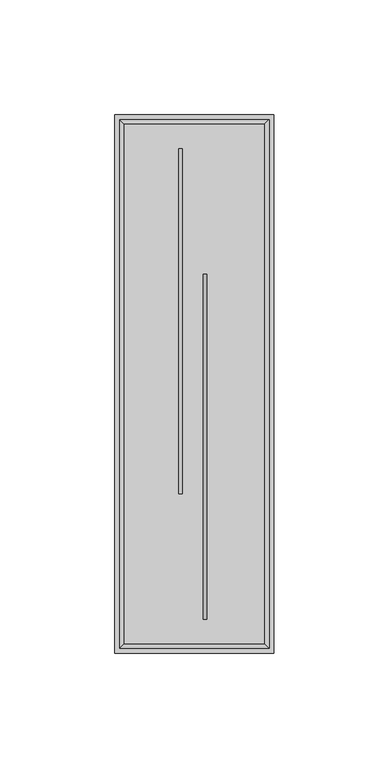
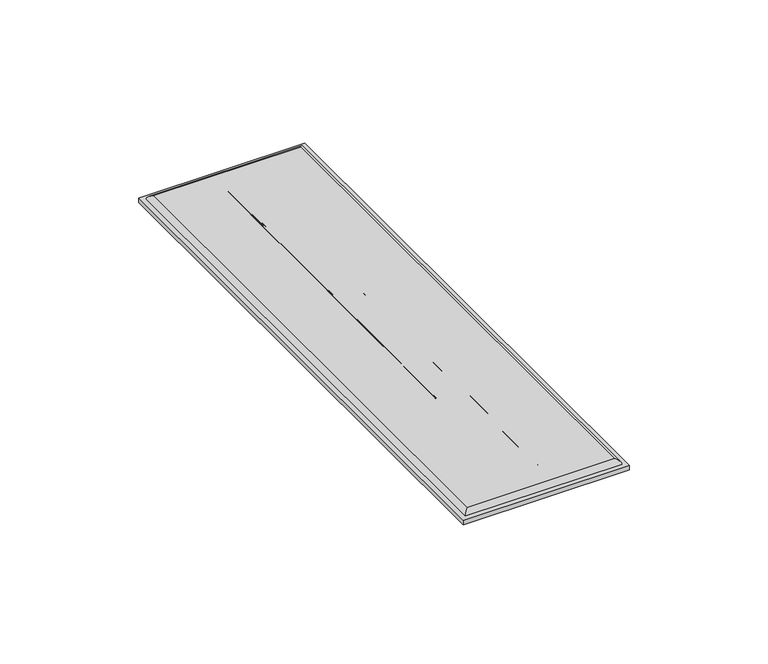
"""IFC4 building model written with IfcOpenShell, lengths in millimetres: proxy geometry, PBSHOP - HORIZONTES TULUM 6,5X23 : TULUM FENDA."""

from ifc_helpers import new_model, si_unit, point, frame, origin, place, context, project, spatial, polyline, circle_curve, ellipse_curve, trimmed, source, transform, mapped, element, save
from ifc_brep_helpers import plane_surface, cylinder_surface, revolved_surface, advanced_brep


def generic_models_c1e678a0(model_context):
    return source(origin(), model_context, "Body", "AdvancedBrep", [
        advanced_brep(
        [(-7.9815224, -47.6646464, 1.7205609), (-7.9815224, -47.5885768, 0.7234584), (-3.9815224, -47.5885768, 0.7234584), (-3.9815224, -47.6646464, 1.7205609), (-7.9815224, 102.2402665, 1.7205609), (-3.9815224, 102.2402665, 1.7205609), (-3.9815224, 102.1641968, 0.7234584), (-7.9815224, 102.1641968, 0.7234584)],
        [
            (0, 1),
            (1, 2),
            (2, 3),
            (3, 0, circle_curve(frame((-5.9815224, -47.6646464, 1.7205609), z_axis=(0.0, -0.9971025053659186, -0.0760696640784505), x_axis=(0.0, -0.0760696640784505, 0.9971025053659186)), 2.0)),
            (4, 5, circle_curve(frame((-5.9815224, 102.2402665, 1.7205609), z_axis=(0.0, 0.9971025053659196, -0.07606966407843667), x_axis=(0.0, 0.07606966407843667, 0.9971025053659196)), 2.0)),
            (5, 6),
            (6, 7),
            (7, 4),
            (3, 5, circle_curve(frame((-3.9815224, 27.28781, -980.7378609), z_axis=(-1.0, 0.0, 0.0), x_axis=(0.0, -0.0760696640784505, 0.9971025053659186)), 985.313362)),
            (4, 0, circle_curve(frame((-7.9815224, 27.28781, -980.7378609), z_axis=(1.0, 0.0, 0.0), x_axis=(0.0, -0.0760696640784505, 0.9971025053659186)), 985.313362)),
            (7, 1, circle_curve(frame((-7.9815224, 27.28781, -980.7378609), z_axis=(1.0, 0.0, 0.0), x_axis=(0.0, -0.0760696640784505, 0.9971025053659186)), 984.313362)),
            (6, 2, circle_curve(frame((-3.9815224, 27.28781, -980.7378609), z_axis=(1.0, 0.0, 0.0), x_axis=(0.0, -0.0760696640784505, 0.9971025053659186)), 984.313362)),
        ],
        [
            plane_surface(frame((-5.9815224, -47.71219, 2.34375), z_axis=(0.0, -0.9971025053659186, -0.0760696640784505), x_axis=(1.0, 0.0, 0.0))),
            plane_surface(frame((-5.9815224, 102.28781, 2.34375), z_axis=(0.0, 0.9971025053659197, -0.0760696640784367), x_axis=(1.0, 0.0, 0.0))),
            revolved_surface(trimmed(ellipse_curve(frame((-5.9815224, -47.6646464, 1.7205609), z_axis=(0.0, -0.9971025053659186, -0.0760696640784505), x_axis=(0.0, -0.0760696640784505, 0.9971025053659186)), 2.0, 2.0), [point((-3.9815224, -47.6646464, 1.7205609))], [point((-7.9815224, -47.6646464, 1.7205609))], True, "CARTESIAN"), (-5.9815224, 27.28781, -980.7378609), (-1.0, 0.0, 0.0)),
            plane_surface(frame((-7.9815224, 27.28781, -980.7378609), z_axis=(-1.0, 0.0, 0.0), x_axis=(0.0, -0.0760696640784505, 0.9971025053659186))),
            revolved_surface(polyline([(-7.9815224, -47.58857679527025, 0.7234584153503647), (-3.9815224, -47.58857679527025, 0.7234584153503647)]), (-5.9815224, 27.28781, -980.7378609), (-1.0, 0.0, 0.0)),
            plane_surface(frame((-3.9815224, 27.28781, -980.7378609), z_axis=(1.0, 0.0, 0.0), x_axis=(0.0, -0.0760696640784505, 0.9971025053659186))),
        ],
        [
            (0, [[1, 2, 3, 4]]),
            (1, [[5, 6, 7, 8]]),
            (2, [[-4, 9, -5, 10]]),
            (3, [[-1, -10, -8, 11]]),
            (4, [[-2, -11, -7, 12]]),
            (5, [[-3, -12, -6, -9]]),
        ],
    ),
        advanced_brep(
        [(2.6434776, 47.6646464, 1.7205609), (6.6434776, 47.6646464, 1.7205609), (6.6434776, 47.5885768, 0.7234584), (2.6434776, 47.5885768, 0.7234584), (2.6434776, -102.2402665, 1.7205609), (2.6434776, -102.1641968, 0.7234584), (6.6434776, -102.1641968, 0.7234584), (6.6434776, -102.2402665, 1.7205609)],
        [
            (0, 1, circle_curve(frame((4.6434776, 47.6646464, 1.7205609), z_axis=(0.0, 0.9971025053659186, -0.0760696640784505), x_axis=(0.0, -0.0760696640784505, -0.9971025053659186)), 2.0)),
            (1, 2),
            (2, 3),
            (3, 0),
            (4, 5),
            (5, 6),
            (6, 7),
            (7, 4, circle_curve(frame((4.6434776, -102.2402665, 1.7205609), z_axis=(0.0, -0.9971025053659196, -0.07606966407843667), x_axis=(0.0, 0.07606966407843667, -0.9971025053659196)), 2.0)),
            (0, 4, circle_curve(frame((2.6434776, -27.28781, -980.7378609), z_axis=(1.0, 0.0, 0.0), x_axis=(0.0, 0.0760696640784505, 0.9971025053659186)), 985.313362)),
            (7, 1, circle_curve(frame((6.6434776, -27.28781, -980.7378609), z_axis=(-1.0, 0.0, 0.0), x_axis=(0.0, 0.0760696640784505, 0.9971025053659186)), 985.313362)),
            (3, 5, circle_curve(frame((2.6434776, -27.28781, -980.7378609), z_axis=(1.0, 0.0, 0.0), x_axis=(0.0, 0.0760696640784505, 0.9971025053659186)), 984.313362)),
            (2, 6, circle_curve(frame((6.6434776, -27.28781, -980.7378609), z_axis=(1.0, 0.0, 0.0), x_axis=(0.0, 0.0760696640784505, 0.9971025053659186)), 984.313362)),
        ],
        [
            plane_surface(frame((4.6434776, 47.71219, 2.34375), z_axis=(0.0, 0.9971025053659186, -0.0760696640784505), x_axis=(1.0, 0.0, 0.0))),
            plane_surface(frame((4.6434776, -102.28781, 2.34375), z_axis=(0.0, -0.9971025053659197, -0.0760696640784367), x_axis=(1.0, 0.0, 0.0))),
            revolved_surface(trimmed(ellipse_curve(frame((4.6434776, 47.6646464, 1.7205609), z_axis=(0.0, 0.9971025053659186, -0.0760696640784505), x_axis=(0.0, -0.0760696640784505, -0.9971025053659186)), 2.0, 2.0), [point((2.6434776, 47.6646464, 1.7205609))], [point((6.6434776, 47.6646464, 1.7205609))], True, "CARTESIAN"), (4.6434776, -27.28781, -980.7378609), (1.0, 0.0, 0.0)),
            plane_surface(frame((2.6434776, -27.28781, -980.7378609), z_axis=(-1.0, 0.0, 0.0), x_axis=(0.0, 0.0760696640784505, 0.9971025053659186))),
            revolved_surface(polyline([(6.6434776, 47.58857679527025, 0.7234584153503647), (2.6434776, 47.58857679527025, 0.7234584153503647)]), (4.6434776, -27.28781, -980.7378609), (1.0, 0.0, 0.0)),
            plane_surface(frame((6.6434776, -27.28781, -980.7378609), z_axis=(1.0, 0.0, 0.0), x_axis=(0.0, 0.0760696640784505, 0.9971025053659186))),
        ],
        [
            (0, [[1, 2, 3, 4]]),
            (1, [[5, 6, 7, 8]]),
            (2, [[-1, 9, -8, 10]]),
            (3, [[-4, 11, -5, -9]]),
            (4, [[-3, 12, -6, -11]]),
            (5, [[-2, -10, -7, -12]]),
        ],
    ),
        advanced_brep(
        [(-30.5, -113.0, 4.0), (30.5, -113.0, 4.0), (30.5, 113.0, 4.0), (-30.5, 113.0, 4.0), (34.5, 117.0, 0.0), (34.5, -117.0, 0.0), (-34.5, -117.0, 0.0), (-34.5, 117.0, 0.0), (32.5, -115.0, 2.0), (-32.5, -115.0, 2.0), (32.5, 115.0, 2.0), (-32.5, 115.0, 2.0), (34.5, 117.0, 2.0), (-34.5, 117.0, 2.0), (-34.5, -117.0, 2.0), (34.5, -117.0, 2.0)],
        [
            (0, 1),
            (1, 2),
            (2, 3),
            (3, 0),
            (4, 5),
            (5, 6),
            (6, 7),
            (7, 4),
            (8, 1, ellipse_curve(frame((30.5, -113.0, 2.0), z_axis=(-0.7071067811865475, -0.7071067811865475, 0.0), x_axis=(0.7071067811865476, -0.7071067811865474, 0.0)), 2.8284271, 2.0)),
            (0, 9, ellipse_curve(frame((-30.5, -113.0, 2.0), z_axis=(0.7071067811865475, -0.7071067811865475, 0.0), x_axis=(0.7071067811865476, 0.7071067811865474, 0.0)), 2.8284271, 2.0)),
            (9, 8),
            (8, 10),
            (10, 2, ellipse_curve(frame((30.5, 113.0, 2.0), z_axis=(0.7071067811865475, -0.7071067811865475, 0.0), x_axis=(0.7071067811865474, 0.7071067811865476, 0.0)), 2.8284271, 2.0)),
            (10, 11),
            (11, 3, ellipse_curve(frame((-30.5, 113.0, 2.0), z_axis=(0.7071067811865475, 0.7071067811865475, 0.0), x_axis=(-0.7071067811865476, 0.7071067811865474, 0.0)), 2.8284271, 2.0)),
            (11, 9),
            (12, 13),
            (13, 14),
            (14, 15),
            (15, 12),
            (12, 4),
            (7, 13),
            (6, 14),
            (5, 15),
        ],
        [
            plane_surface(frame((-32.5, -115.0, 4.0), z_axis=(0.0, 0.0, 1.0), x_axis=(1.0, 0.0, 0.0))),
            plane_surface(frame((-32.5, -115.0, 0.0), z_axis=(0.0, 0.0, -1.0), x_axis=(-1.0, 0.0, 0.0))),
            cylinder_surface(frame((-32.5, -113.0, 2.0), z_axis=(1.0, 0.0, 0.0), x_axis=(0.0, 1.0, 0.0)), 2.0),
            cylinder_surface(frame((30.5, -115.0, 2.0), z_axis=(0.0, 1.0, 0.0), x_axis=(-1.0, 0.0, 0.0)), 2.0),
            cylinder_surface(frame((32.5, 113.0, 2.0), z_axis=(-1.0, 0.0, 0.0), x_axis=(0.0, -1.0, 0.0)), 2.0),
            cylinder_surface(frame((-30.5, 115.0, 2.0), z_axis=(0.0, -1.0, 0.0), x_axis=(1.0, 0.0, 0.0)), 2.0),
            plane_surface(frame((-34.5, 117.0, 2.0), z_axis=(0.0, 0.0, 1.0), x_axis=(-1.0, 0.0, 0.0))),
            plane_surface(frame((34.5, 117.0, 2.0), z_axis=(0.0, 1.0, 0.0), x_axis=(0.0, 0.0, -1.0))),
            plane_surface(frame((-34.5, 117.0, 2.0), z_axis=(-1.0, 0.0, 0.0), x_axis=(0.0, 0.0, -1.0))),
            plane_surface(frame((-34.5, -117.0, 2.0), z_axis=(0.0, -1.0, 0.0), x_axis=(0.0, 0.0, -1.0))),
            plane_surface(frame((34.5, -117.0, 2.0), z_axis=(1.0, 0.0, 0.0), x_axis=(0.0, 0.0, -1.0))),
        ],
        [
            (0, [[1, 2, 3, 4]]),
            (1, [[5, 6, 7, 8]]),
            (2, [[9, -1, 10, 11]]),
            (3, [[-9, 12, 13, -2]]),
            (4, [[-13, 14, 15, -3]]),
            (5, [[-10, -4, -15, 16]]),
            (6, [[17, 18, 19, 20], [-11, -16, -14, -12]]),
            (7, [[-17, 21, -8, 22]]),
            (8, [[-18, -22, -7, 23]]),
            (9, [[-19, -23, -6, 24]]),
            (10, [[-20, -24, -5, -21]]),
        ],
    ),
    ])


if __name__ == "__main__":
    model = new_model("IFC4")
    model_context = context("Model", 3, world=origin())
    ifc_project = project(units=[si_unit("LENGTHUNIT", "METRE", prefix="MILLI")], contexts=[model_context])
    site = spatial("IfcSite", under=ifc_project)
    building = spatial("IfcBuilding", under=site)
    placement = place(None, origin())
    generic_models_shape = generic_models_c1e678a0(model_context)
    element("IfcBuildingElementProxy", 1, Name="PBSHOP - HORIZONTES TULUM 6,5X23 : TULUM FENDA", ObjectType="PBSHOP - HORIZONTES TULUM 6,5X23 : TULUM FENDA", at=placement, inside=building, context=model_context, shape_type="MappedRepresentation", body=[
        mapped(generic_models_shape, transform((0.0, 0.0, 0.0), x_axis=(1.0, 0.0, 0.0), y_axis=(0.0, 1.0, 0.0), z_axis=(0.0, 0.0, 1.0))),
    ])
    save(model, "model.ifc")
